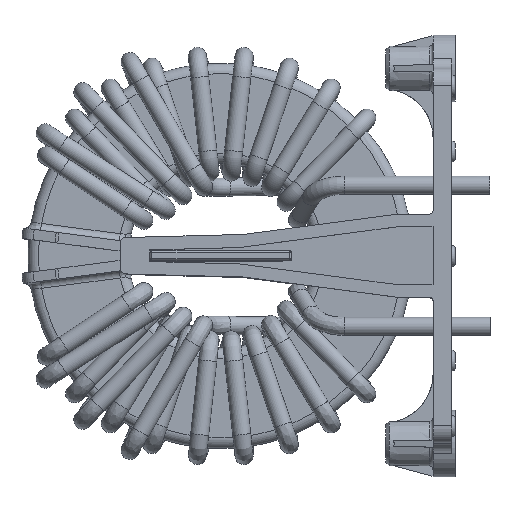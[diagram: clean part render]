
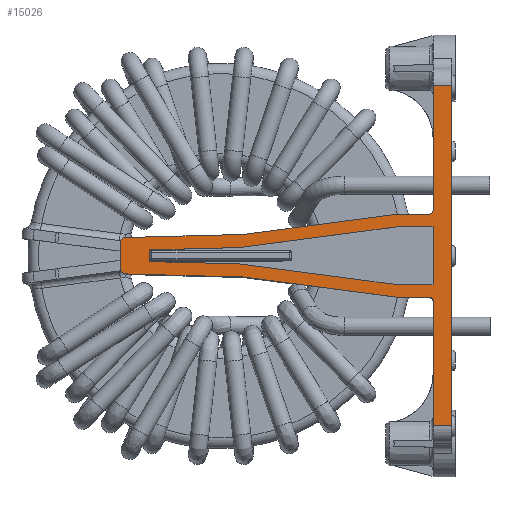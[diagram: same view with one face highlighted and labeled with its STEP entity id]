
A CAD part, top view. The second image highlights one B-rep face of the part: STEP entity #15026.
In plain terms, the highlighted planar face has unit normal (0, 0, 1).
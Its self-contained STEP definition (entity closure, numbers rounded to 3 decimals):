
#14306=CARTESIAN_POINT('',(1.555,1.986,34.2));
#14307=VERTEX_POINT('',#14306);
#14314=CARTESIAN_POINT('',(-11.355,1.648,34.2));
#14315=VERTEX_POINT('',#14314);
#14316=CARTESIAN_POINT('',(-11.355,1.648,34.2));
#14317=DIRECTION('',(1.,0.026,0.0));
#14318=VECTOR('',#14317,12.914);
#14319=LINE('',#14316,#14318);
#14320=EDGE_CURVE('',#14315,#14307,#14319,.T.);
#14386=CARTESIAN_POINT('',(-11.355,-0.031,34.2));
#14387=VERTEX_POINT('',#14386);
#14388=CARTESIAN_POINT('',(-11.355,-0.031,34.2));
#14389=DIRECTION('',(0.0,1.0,0.0));
#14390=VECTOR('',#14389,1.679);
#14391=LINE('',#14388,#14390);
#14392=EDGE_CURVE('',#14387,#14315,#14391,.T.);
#14823=CARTESIAN_POINT('',(-15.605,2.908,34.2));
#14824=VERTEX_POINT('',#14823);
#14831=CARTESIAN_POINT('',(-15.105,3.421,34.2));
#14832=VERTEX_POINT('',#14831);
#14833=CARTESIAN_POINT('',(-15.605,2.908,34.2));
#14834=DIRECTION('',(0.698,0.716,0.0));
#14835=VECTOR('',#14834,0.716);
#14836=LINE('',#14833,#14835);
#14837=EDGE_CURVE('',#14824,#14832,#14836,.T.);
#14848=CARTESIAN_POINT('',(29.395,-26.192,34.2));
#14849=DIRECTION('',(0.0,0.0,1.0));
#14850=DIRECTION('',(1.0,0.0,0.0));
#14851=AXIS2_PLACEMENT_3D('',#14848,#14849,#14850);
#14852=PLANE('',#14851);
#14853=ORIENTED_EDGE('',*,*,#14837,.F.);
#14854=CARTESIAN_POINT('',(-15.605,-1.292,34.2));
#14855=VERTEX_POINT('',#14854);
#14856=CARTESIAN_POINT('',(-15.605,2.908,34.2));
#14857=DIRECTION('',(0.0,-1.0,0.0));
#14858=VECTOR('',#14857,4.2);
#14859=LINE('',#14856,#14858);
#14860=EDGE_CURVE('',#14824,#14855,#14859,.T.);
#14861=ORIENTED_EDGE('',*,*,#14860,.T.);
#14862=CARTESIAN_POINT('',(-15.105,-1.805,34.2));
#14863=VERTEX_POINT('',#14862);
#14864=CARTESIAN_POINT('',(-15.105,-1.805,34.2));
#14865=DIRECTION('',(-0.698,0.716,0.0));
#14866=VECTOR('',#14865,0.716);
#14867=LINE('',#14864,#14866);
#14868=EDGE_CURVE('',#14863,#14855,#14867,.T.);
#14869=ORIENTED_EDGE('',*,*,#14868,.F.);
#14870=CARTESIAN_POINT('',(2.089,-2.255,34.2));
#14871=VERTEX_POINT('',#14870);
#14872=CARTESIAN_POINT('',(-15.105,-1.805,34.2));
#14873=DIRECTION('',(1.,-0.026,0.0));
#14874=VECTOR('',#14873,17.2);
#14875=LINE('',#14872,#14874);
#14876=EDGE_CURVE('',#14863,#14871,#14875,.T.);
#14877=ORIENTED_EDGE('',*,*,#14876,.T.);
#14878=CARTESIAN_POINT('',(24.395,-5.192,34.2));
#14879=VERTEX_POINT('',#14878);
#14880=CARTESIAN_POINT('',(2.089,-2.255,34.2));
#14881=DIRECTION('',(0.991,-0.131,0.0));
#14882=VECTOR('',#14881,22.499);
#14883=LINE('',#14880,#14882);
#14884=EDGE_CURVE('',#14871,#14879,#14883,.T.);
#14885=ORIENTED_EDGE('',*,*,#14884,.T.);
#14886=CARTESIAN_POINT('',(28.895,-5.192,34.2));
#14887=VERTEX_POINT('',#14886);
#14888=CARTESIAN_POINT('',(24.395,-5.192,34.2));
#14889=DIRECTION('',(1.0,0.0,0.0));
#14890=VECTOR('',#14889,4.5);
#14891=LINE('',#14888,#14890);
#14892=EDGE_CURVE('',#14879,#14887,#14891,.T.);
#14893=ORIENTED_EDGE('',*,*,#14892,.T.);
#14894=CARTESIAN_POINT('',(29.395,-5.692,34.2));
#14895=VERTEX_POINT('',#14894);
#14896=CARTESIAN_POINT('',(28.895,-5.692,34.2));
#14897=DIRECTION('',(0.,0.,1.));
#14898=DIRECTION('',(0.707,0.707,0.));
#14899=AXIS2_PLACEMENT_3D('',#14896,#14897,#14898);
#14900=CIRCLE('',#14899,0.5);
#14901=EDGE_CURVE('',#14895,#14887,#14900,.T.);
#14902=ORIENTED_EDGE('',*,*,#14901,.F.);
#14903=CARTESIAN_POINT('',(29.395,-23.692,34.2));
#14904=VERTEX_POINT('',#14903);
#14905=CARTESIAN_POINT('',(29.395,-23.692,34.2));
#14906=DIRECTION('',(0.0,1.0,0.0));
#14907=VECTOR('',#14906,18.0);
#14908=LINE('',#14905,#14907);
#14909=EDGE_CURVE('',#14904,#14895,#14908,.T.);
#14910=ORIENTED_EDGE('',*,*,#14909,.F.);
#14911=CARTESIAN_POINT('',(31.995,-23.692,34.2));
#14912=VERTEX_POINT('',#14911);
#14913=CARTESIAN_POINT('',(29.395,-23.692,34.2));
#14914=DIRECTION('',(1.0,0.0,0.0));
#14915=VECTOR('',#14914,2.6);
#14916=LINE('',#14913,#14915);
#14917=EDGE_CURVE('',#14904,#14912,#14916,.T.);
#14918=ORIENTED_EDGE('',*,*,#14917,.T.);
#14919=CARTESIAN_POINT('',(31.995,25.308,34.2));
#14920=VERTEX_POINT('',#14919);
#14921=CARTESIAN_POINT('',(31.995,-23.692,34.2));
#14922=DIRECTION('',(0.0,1.0,0.0));
#14923=VECTOR('',#14922,49.);
#14924=LINE('',#14921,#14923);
#14925=EDGE_CURVE('',#14912,#14920,#14924,.T.);
#14926=ORIENTED_EDGE('',*,*,#14925,.T.);
#14927=CARTESIAN_POINT('',(29.395,25.308,34.2));
#14928=VERTEX_POINT('',#14927);
#14929=CARTESIAN_POINT('',(29.395,25.308,34.2));
#14930=DIRECTION('',(1.0,0.0,0.0));
#14931=VECTOR('',#14930,2.6);
#14932=LINE('',#14929,#14931);
#14933=EDGE_CURVE('',#14928,#14920,#14932,.T.);
#14934=ORIENTED_EDGE('',*,*,#14933,.F.);
#14935=CARTESIAN_POINT('',(29.395,7.308,34.2));
#14936=VERTEX_POINT('',#14935);
#14937=CARTESIAN_POINT('',(29.395,7.308,34.2));
#14938=DIRECTION('',(0.0,1.0,0.0));
#14939=VECTOR('',#14938,18.);
#14940=LINE('',#14937,#14939);
#14941=EDGE_CURVE('',#14936,#14928,#14940,.T.);
#14942=ORIENTED_EDGE('',*,*,#14941,.F.);
#14943=CARTESIAN_POINT('',(28.895,6.808,34.2));
#14944=VERTEX_POINT('',#14943);
#14945=CARTESIAN_POINT('',(28.895,7.308,34.2));
#14946=DIRECTION('',(0.,0.,1.0));
#14947=DIRECTION('',(0.707,-0.707,0.));
#14948=AXIS2_PLACEMENT_3D('',#14945,#14946,#14947);
#14949=CIRCLE('',#14948,0.5);
#14950=EDGE_CURVE('',#14944,#14936,#14949,.T.);
#14951=ORIENTED_EDGE('',*,*,#14950,.F.);
#14952=CARTESIAN_POINT('',(24.395,6.808,34.2));
#14953=VERTEX_POINT('',#14952);
#14954=CARTESIAN_POINT('',(28.895,6.808,34.2));
#14955=DIRECTION('',(-1.0,0.0,0.0));
#14956=VECTOR('',#14955,4.5);
#14957=LINE('',#14954,#14956);
#14958=EDGE_CURVE('',#14944,#14953,#14957,.T.);
#14959=ORIENTED_EDGE('',*,*,#14958,.T.);
#14960=CARTESIAN_POINT('',(2.089,3.872,34.2));
#14961=VERTEX_POINT('',#14960);
#14962=CARTESIAN_POINT('',(24.395,6.808,34.2));
#14963=DIRECTION('',(-0.991,-0.131,0.0));
#14964=VECTOR('',#14963,22.499);
#14965=LINE('',#14962,#14964);
#14966=EDGE_CURVE('',#14953,#14961,#14965,.T.);
#14967=ORIENTED_EDGE('',*,*,#14966,.T.);
#14968=CARTESIAN_POINT('',(2.089,3.872,34.2));
#14969=DIRECTION('',(-1.,-0.026,0.0));
#14970=VECTOR('',#14969,17.2);
#14971=LINE('',#14968,#14970);
#14972=EDGE_CURVE('',#14961,#14832,#14971,.T.);
#14973=ORIENTED_EDGE('',*,*,#14972,.T.);
#14974=EDGE_LOOP('',(#14853,#14861,#14869,#14877,#14885,#14893,#14902,#14910,#14918,#14926,#14934,#14942,#14951,#14959,#14967,#14973));
#14975=FACE_OUTER_BOUND('',#14974,.T.);
#14976=ORIENTED_EDGE('',*,*,#14320,.T.);
#14977=CARTESIAN_POINT('',(24.513,5.008,34.2));
#14978=VERTEX_POINT('',#14977);
#14979=CARTESIAN_POINT('',(1.555,1.986,34.2));
#14980=DIRECTION('',(0.991,0.131,0.0));
#14981=VECTOR('',#14980,23.156);
#14982=LINE('',#14979,#14981);
#14983=EDGE_CURVE('',#14307,#14978,#14982,.T.);
#14984=ORIENTED_EDGE('',*,*,#14983,.T.);
#14985=CARTESIAN_POINT('',(29.395,5.008,34.2));
#14986=VERTEX_POINT('',#14985);
#14987=CARTESIAN_POINT('',(24.513,5.008,34.2));
#14988=DIRECTION('',(1.0,0.0,0.0));
#14989=VECTOR('',#14988,4.882);
#14990=LINE('',#14987,#14989);
#14991=EDGE_CURVE('',#14978,#14986,#14990,.T.);
#14992=ORIENTED_EDGE('',*,*,#14991,.T.);
#14993=CARTESIAN_POINT('',(29.395,-3.392,34.2));
#14994=VERTEX_POINT('',#14993);
#14995=CARTESIAN_POINT('',(29.395,5.008,34.2));
#14996=DIRECTION('',(0.0,-1.0,0.0));
#14997=VECTOR('',#14996,8.4);
#14998=LINE('',#14995,#14997);
#14999=EDGE_CURVE('',#14986,#14994,#14998,.T.);
#15000=ORIENTED_EDGE('',*,*,#14999,.T.);
#15001=CARTESIAN_POINT('',(24.513,-3.392,34.2));
#15002=VERTEX_POINT('',#15001);
#15003=CARTESIAN_POINT('',(29.395,-3.392,34.2));
#15004=DIRECTION('',(-1.0,0.0,0.0));
#15005=VECTOR('',#15004,4.882);
#15006=LINE('',#15003,#15005);
#15007=EDGE_CURVE('',#14994,#15002,#15006,.T.);
#15008=ORIENTED_EDGE('',*,*,#15007,.T.);
#15009=CARTESIAN_POINT('',(1.555,-0.369,34.2));
#15010=VERTEX_POINT('',#15009);
#15011=CARTESIAN_POINT('',(24.513,-3.392,34.2));
#15012=DIRECTION('',(-0.991,0.131,0.0));
#15013=VECTOR('',#15012,23.156);
#15014=LINE('',#15011,#15013);
#15015=EDGE_CURVE('',#15002,#15010,#15014,.T.);
#15016=ORIENTED_EDGE('',*,*,#15015,.T.);
#15017=CARTESIAN_POINT('',(1.555,-0.369,34.2));
#15018=DIRECTION('',(-1.,0.026,0.0));
#15019=VECTOR('',#15018,12.914);
#15020=LINE('',#15017,#15019);
#15021=EDGE_CURVE('',#15010,#14387,#15020,.T.);
#15022=ORIENTED_EDGE('',*,*,#15021,.T.);
#15023=ORIENTED_EDGE('',*,*,#14392,.T.);
#15024=EDGE_LOOP('',(#14976,#14984,#14992,#15000,#15008,#15016,#15022,#15023));
#15025=FACE_BOUND('',#15024,.T.);
#15026=ADVANCED_FACE('',(#14975,#15025),#14852,.T.);
